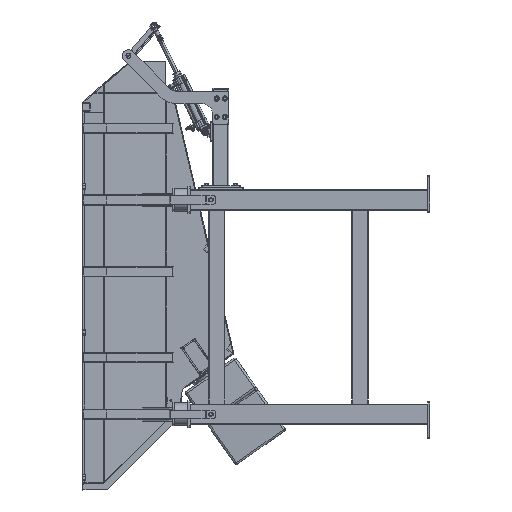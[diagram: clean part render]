
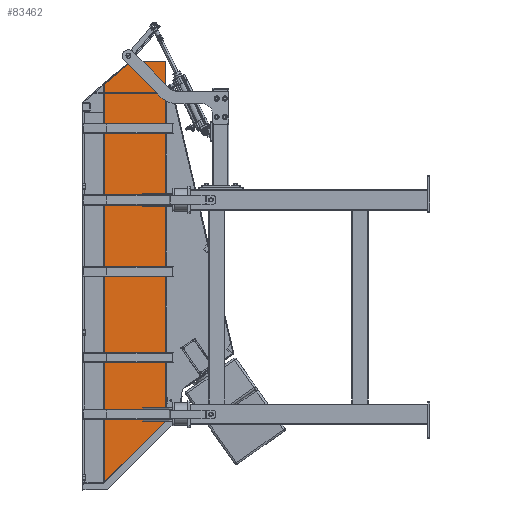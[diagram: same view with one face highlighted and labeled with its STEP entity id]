
A CAD part, left-side view. The second image highlights one B-rep face of the part: STEP entity #83462.
In plain terms, the highlighted planar face has unit normal (-0.707, -0.707, 0).
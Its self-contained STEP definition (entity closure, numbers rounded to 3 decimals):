
#6461 = DIRECTION ( 'NONE',  ( -0.707, 0.707, 0. ) ) ;
#21670 = CARTESIAN_POINT ( 'NONE',  ( -202.183, 1290.908, 1197.5 ) ) ;
#22995 = VERTEX_POINT ( 'NONE', #98061 ) ;
#24773 = VECTOR ( 'NONE', #47057, 1000. ) ;
#29935 = ORIENTED_EDGE ( 'NONE', *, *, #109237, .F. ) ;
#34118 = VERTEX_POINT ( 'NONE', #117571 ) ;
#37116 = ORIENTED_EDGE ( 'NONE', *, *, #116014, .T. ) ;
#38745 = ORIENTED_EDGE ( 'NONE', *, *, #90609, .T. ) ;
#47057 = DIRECTION ( 'NONE',  ( 0., 0., -1. ) ) ;
#52620 = VERTEX_POINT ( 'NONE', #121316 ) ;
#55699 = DIRECTION ( 'NONE',  ( -0.602, 0.602, -0.524 ) ) ;
#56806 = AXIS2_PLACEMENT_3D ( 'NONE', #101544, #92735, #6461 ) ;
#60842 = CARTESIAN_POINT ( 'NONE',  ( -501.796, 1590.52, 1197.5 ) ) ;
#61620 = ORIENTED_EDGE ( 'NONE', *, *, #111894, .T. ) ;
#62406 = CARTESIAN_POINT ( 'NONE',  ( -202.183, 1290.908, -555.959 ) ) ;
#63087 = PLANE ( 'NONE',  #56806 ) ;
#64885 = LINE ( 'NONE', #62406, #78720 ) ;
#67117 = CARTESIAN_POINT ( 'NONE',  ( -501.766, 1590.491, 1197.5 ) ) ;
#67937 = VECTOR ( 'NONE', #108827, 1000. ) ;
#73944 = CARTESIAN_POINT ( 'NONE',  ( -248.831, 1337.556, 1304.858 ) ) ;
#76447 = EDGE_LOOP ( 'NONE', ( #37116, #38745, #121482, #29935, #61620 ) ) ;
#77398 = VERTEX_POINT ( 'NONE', #79627 ) ;
#78720 = VECTOR ( 'NONE', #91422, 1000. ) ;
#79627 = CARTESIAN_POINT ( 'NONE',  ( -202.183, 1290.908, -555.959 ) ) ;
#83050 = VECTOR ( 'NONE', #55699, 1000. ) ;
#83462 = ADVANCED_FACE ( 'NONE', ( #111638 ), #63087, .F. ) ;
#85394 = LINE ( 'NONE', #67117, #24773 ) ;
#90609 = EDGE_CURVE ( 'NONE', #22995, #52620, #85394, .T. ) ;
#91422 = DIRECTION ( 'NONE',  ( -0.577, 0.577, -0.577 ) ) ;
#92735 = DIRECTION ( 'NONE',  ( 0.707, 0.707, 0. ) ) ;
#95579 = VERTEX_POINT ( 'NONE', #118709 ) ;
#98061 = CARTESIAN_POINT ( 'NONE',  ( -501.766, 1590.491, 1084.914 ) ) ;
#101544 = CARTESIAN_POINT ( 'NONE',  ( -202.154, 1290.879, 1197.5 ) ) ;
#108827 = DIRECTION ( 'NONE',  ( -0.707, 0.707, 0. ) ) ;
#109227 = DIRECTION ( 'NONE',  ( 0., 0., -1. ) ) ;
#109237 = EDGE_CURVE ( 'NONE', #34118, #77398, #118680, .T. ) ;
#111416 = EDGE_CURVE ( 'NONE', #77398, #52620, #64885, .T. ) ;
#111638 = FACE_OUTER_BOUND ( 'NONE', #76447, .T. ) ;
#111894 = EDGE_CURVE ( 'NONE', #34118, #95579, #118290, .T. ) ;
#116014 = EDGE_CURVE ( 'NONE', #95579, #22995, #120073, .T. ) ;
#117571 = CARTESIAN_POINT ( 'NONE',  ( -202.183, 1290.908, 1197.5 ) ) ;
#118259 = VECTOR ( 'NONE', #109227, 1000. ) ;
#118290 = LINE ( 'NONE', #60842, #67937 ) ;
#118680 = LINE ( 'NONE', #21670, #118259 ) ;
#118709 = CARTESIAN_POINT ( 'NONE',  ( -372.293, 1461.018, 1197.5 ) ) ;
#120073 = LINE ( 'NONE', #73944, #83050 ) ;
#121316 = CARTESIAN_POINT ( 'NONE',  ( -501.766, 1590.491, -855.542 ) ) ;
#121482 = ORIENTED_EDGE ( 'NONE', *, *, #111416, .F. ) ;
